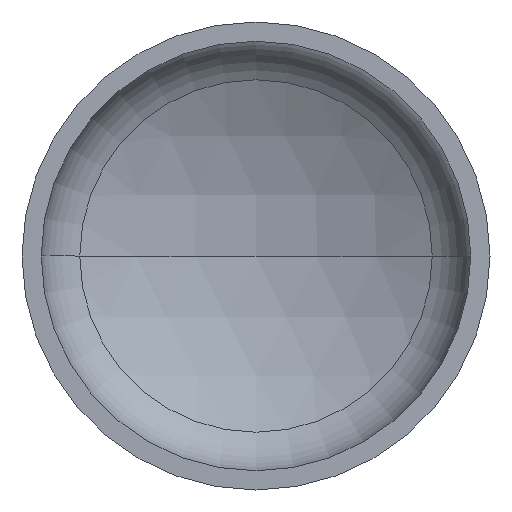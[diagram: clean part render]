
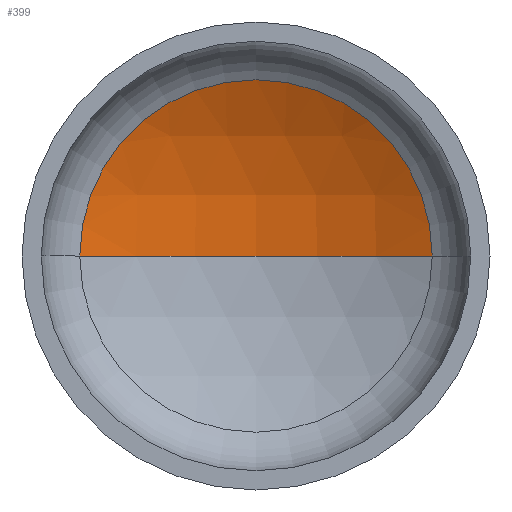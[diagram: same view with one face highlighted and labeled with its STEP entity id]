
A CAD part, front view. The second image highlights one B-rep face of the part: STEP entity #399.
In plain terms, the highlighted spherical face has radius 720 mm.
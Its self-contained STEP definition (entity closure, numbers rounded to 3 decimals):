
#2 = AXIS2_PLACEMENT_3D ( 'NONE', #115, #328, #146 ) ;
#5 = VERTEX_POINT ( 'NONE', #219 ) ;
#6 = AXIS2_PLACEMENT_3D ( 'NONE', #321, #374, #138 ) ;
#56 = AXIS2_PLACEMENT_3D ( 'NONE', #378, #63, #202 ) ;
#63 = DIRECTION ( 'NONE',  ( 0., 0., -1. ) ) ;
#64 = ORIENTED_EDGE ( 'NONE', *, *, #327, .F. ) ;
#115 = CARTESIAN_POINT ( 'NONE',  ( 0., -391.733, 0. ) ) ;
#120 = SPHERICAL_SURFACE ( 'NONE', #56, 720. ) ;
#128 = CIRCLE ( 'NONE', #2, 720. ) ;
#131 = CARTESIAN_POINT ( 'NONE',  ( 0., 328.267, 0. ) ) ;
#138 = DIRECTION ( 'NONE',  ( 1., 0., 0. ) ) ;
#146 = DIRECTION ( 'NONE',  ( -1., 0., 0. ) ) ;
#159 = EDGE_LOOP ( 'NONE', ( #64, #277, #163 ) ) ;
#163 = ORIENTED_EDGE ( 'NONE', *, *, #347, .T. ) ;
#168 = VERTEX_POINT ( 'NONE', #131 ) ;
#179 = CARTESIAN_POINT ( 'NONE',  ( 0., 243.522, 0. ) ) ;
#202 = DIRECTION ( 'NONE',  ( -1., 0., 0. ) ) ;
#219 = CARTESIAN_POINT ( 'NONE',  ( 338.897, 243.522, 0. ) ) ;
#254 = DIRECTION ( 'NONE',  ( 1., 0., 0. ) ) ;
#268 = FACE_OUTER_BOUND ( 'NONE', #159, .T. ) ;
#277 = ORIENTED_EDGE ( 'NONE', *, *, #341, .T. ) ;
#303 = VERTEX_POINT ( 'NONE', #394 ) ;
#321 = CARTESIAN_POINT ( 'NONE',  ( 0., -391.733, 0. ) ) ;
#327 = EDGE_CURVE ( 'NONE', #168, #303, #372, .T. ) ;
#328 = DIRECTION ( 'NONE',  ( 0., 0., -1. ) ) ;
#333 = AXIS2_PLACEMENT_3D ( 'NONE', #179, #390, #254 ) ;
#341 = EDGE_CURVE ( 'NONE', #168, #5, #128, .T. ) ;
#347 = EDGE_CURVE ( 'NONE', #5, #303, #365, .T. ) ;
#365 = CIRCLE ( 'NONE', #333, 338.897 ) ;
#372 = CIRCLE ( 'NONE', #6, 720. ) ;
#374 = DIRECTION ( 'NONE',  ( 0., 0., 1. ) ) ;
#378 = CARTESIAN_POINT ( 'NONE',  ( 0., -391.733, 0. ) ) ;
#390 = DIRECTION ( 'NONE',  ( 0., -1., 0. ) ) ;
#394 = CARTESIAN_POINT ( 'NONE',  ( -338.897, 243.522, 0. ) ) ;
#399 = ADVANCED_FACE ( 'NONE', ( #268 ), #120, .F. ) ;
